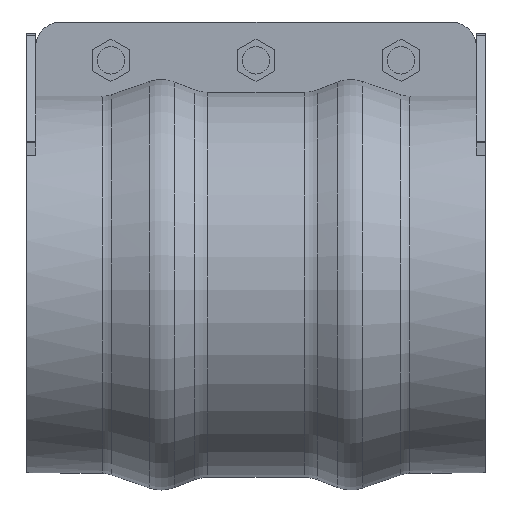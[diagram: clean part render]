
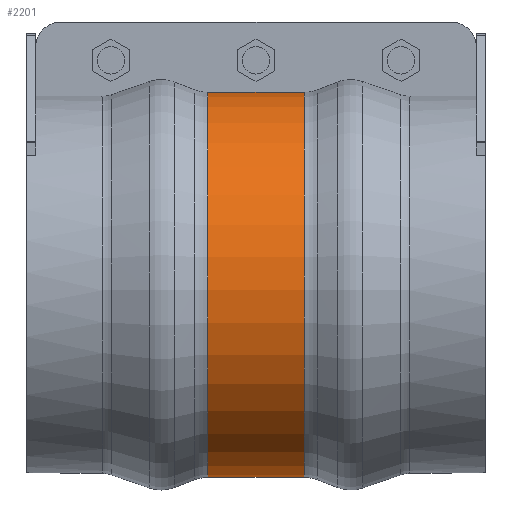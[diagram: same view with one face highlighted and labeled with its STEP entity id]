
A CAD part, front view. The second image highlights one B-rep face of the part: STEP entity #2201.
In plain terms, the highlighted cylindrical face has radius 133.31 mm (diameter 266.621 mm), a partial arc.
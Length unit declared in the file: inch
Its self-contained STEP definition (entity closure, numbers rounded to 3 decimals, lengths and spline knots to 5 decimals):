
#257=FACE_OUTER_BOUND('',#382,.T.);
#382=EDGE_LOOP('',(#1818,#1819,#1820,#1821));
#574=LINE('',#3580,#753);
#577=LINE('',#3657,#756);
#753=VECTOR('',#2893,0.3937);
#756=VECTOR('',#2904,0.3937);
#816=CIRCLE('',#2384,5.24844);
#817=CIRCLE('',#2386,5.24844);
#1017=VERTEX_POINT('',#3572);
#1018=VERTEX_POINT('',#3579);
#1029=VERTEX_POINT('',#3649);
#1030=VERTEX_POINT('',#3656);
#1290=EDGE_CURVE('',#1018,#1017,#574,.T.);
#1305=EDGE_CURVE('',#1030,#1029,#577,.T.);
#1316=EDGE_CURVE('',#1018,#1029,#816,.T.);
#1317=EDGE_CURVE('',#1017,#1030,#817,.T.);
#1818=ORIENTED_EDGE('',*,*,#1290,.T.);
#1819=ORIENTED_EDGE('',*,*,#1317,.T.);
#1820=ORIENTED_EDGE('',*,*,#1305,.T.);
#1821=ORIENTED_EDGE('',*,*,#1316,.F.);
#1994=CYLINDRICAL_SURFACE('',#2385,5.24844);
#2201=ADVANCED_FACE('',(#257),#1994,.T.);
#2384=AXIS2_PLACEMENT_3D('',#3701,#2925,#2926);
#2385=AXIS2_PLACEMENT_3D('',#3702,#2927,#2928);
#2386=AXIS2_PLACEMENT_3D('',#3703,#2929,#2930);
#2893=DIRECTION('',(-1.,0.,0.));
#2904=DIRECTION('',(1.,0.,0.));
#2925=DIRECTION('center_axis',(1.,0.,0.));
#2926=DIRECTION('ref_axis',(0.,0.,-1.));
#2927=DIRECTION('center_axis',(1.,0.,0.));
#2928=DIRECTION('ref_axis',(0.,0.,
-1.));
#2929=DIRECTION('center_axis',(1.,0.,0.));
#2930=DIRECTION('ref_axis',(0.,0.,-1.));
#3572=CARTESIAN_POINT('',(-1.31466,-0.3125,5.23913));
#3579=CARTESIAN_POINT('',(1.31466,-0.3125,5.23913));
#3580=CARTESIAN_POINT('',(0.,-0.3125,5.23913));
#3649=CARTESIAN_POINT('',(1.31466,0.3125,5.23913));
#3656=CARTESIAN_POINT('',(-1.31466,0.3125,5.23913));
#3657=CARTESIAN_POINT('',(0.,0.3125,5.23913));
#3701=CARTESIAN_POINT('Origin',(1.31466,0.,0.));
#3702=CARTESIAN_POINT('Origin',(0.,0.,0.));
#3703=CARTESIAN_POINT('Origin',(-1.31466,0.,
0.));
